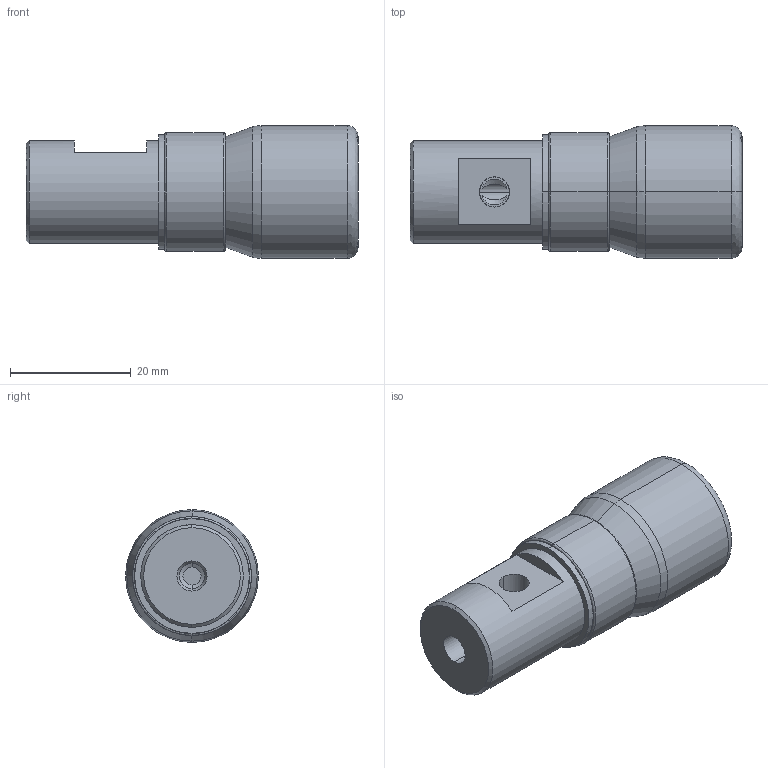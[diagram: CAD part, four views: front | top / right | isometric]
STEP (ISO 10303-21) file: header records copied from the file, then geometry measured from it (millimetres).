
FILE_DESCRIPTION( (''), '2;1');
FILE_NAME ('TGMX25.1684.RBP017RCA_22894.stp','2015-03-30T15:10:54',(''),(''),'spGate 11.3.7','spGate','');
FILE_SCHEMA (('AUTOMOTIVE_DESIGN'));
Length unit declared in the file: millimetre
Bounding box: 55 x 22 x 22 mm (x, y, z)
Volume: 14925.9 mm3; surface area: 4699.5 mm2
Topology: 1 solids, 1 shells, 50 faces, 109 edges, 67 vertices
Faces by surface type: bspline 20, cylinder 18, plane 12
Entity records: 2573 total; most frequent: CARTESIAN_POINT 655, ORIENTED_EDGE 218, DIRECTION 190, COLOUR_RGB 160, PRESENTATION_STYLE_ASSIGNMENT 160, STYLED_ITEM 160, EDGE_CURVE 109, DRAUGHTING_PRE_DEFINED_CURVE_FONT 109
